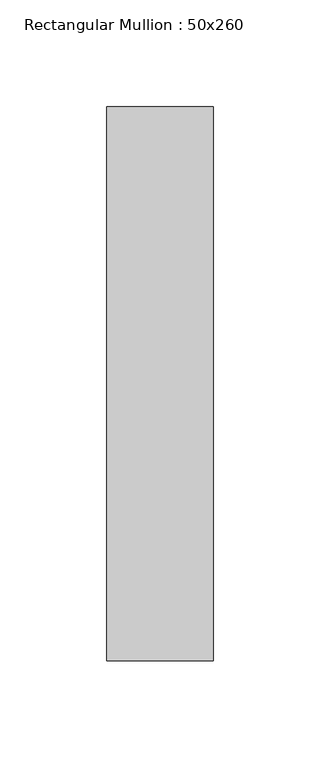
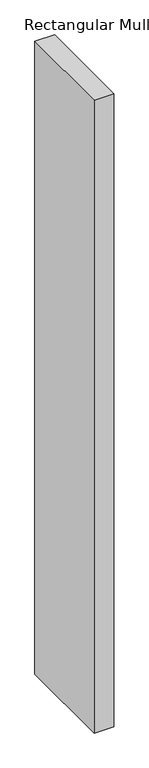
"""IFC4 building model written with IfcOpenShell, lengths in millimetres: member geometry, Rectangular Mullion : 50x260."""

import ifcopenshell
import ifcopenshell.guid

model = None  # the IFC model being written
_history = None  # IfcOwnerHistory: only IFC2X3 demands one
_inside = {}  # id of a spatial element -> (the spatial element, [elements in it])
_under = {}  # id of a project, library or spatial element -> (it, [spatial elements below it])
_declared = {}  # id of a project -> (the project, [libraries it declares])
_typed = {}  # id of a type object -> (the type object, [elements of that type])
_made_of = {}  # id of a material, layer set ... -> (it, [elements and type objects made of it])


def new_model(schema):
    """Start an empty IFC model of exactly this schema.

    Asked for "IFC4X3", IfcOpenShell would pick the latest addendum, in which some entities
    have other attributes; the version numbers below select the first issue.
    IFC2X3 requires an IfcOwnerHistory on every rooted entity: one is made here for all.
    """
    global model, _history
    if schema == "IFC4X3":
        model = ifcopenshell.file(schema_version=(4, 3, 0, 0))
    else:
        model = ifcopenshell.file(schema=schema)
    _inside.clear()
    _under.clear()
    _declared.clear()
    _typed.clear()
    _made_of.clear()
    _history = None
    if model.schema == "IFC2X3":
        org = make("IfcOrganization", Name="unknown")
        user = make(
            "IfcPersonAndOrganization",
            ThePerson=make("IfcPerson", FamilyName="unknown"),
            TheOrganization=org,
        )
        app = make(
            "IfcApplication",
            ApplicationDeveloper=org,
            Version="unknown",
            ApplicationFullName="unknown",
            ApplicationIdentifier="unknown",
        )
        _history = make(
            "IfcOwnerHistory",
            OwningUser=user,
            OwningApplication=app,
            ChangeAction="ADDED",
            CreationDate=0,
        )
    return model


def make(cls, **values):
    """One entity of the class cls with the attributes given. An attribute that is None is left unset."""
    return model.create_entity(
        cls, **{name: value for name, value in values.items() if value is not None}
    )


def rooted(cls, **values):
    """An entity with a GlobalId (a new one), such as an element, a storey or a relation."""
    return make(cls, GlobalId=ifcopenshell.guid.new(), OwnerHistory=_history, **values)


def si_unit(unit_type, name, prefix=None):
    """IfcSIUnit, for example si_unit("LENGTHUNIT", "METRE", prefix="MILLI")."""
    return make("IfcSIUnit", UnitType=unit_type, Prefix=prefix, Name=name)


def assignment(units):
    """IfcUnitAssignment: the units of a project."""
    return None if units is None else make("IfcUnitAssignment", Units=units)


def point(xyz):
    """IfcCartesianPoint."""
    return None if xyz is None else make("IfcCartesianPoint", Coordinates=xyz)


def direction(xyz):
    """IfcDirection."""
    return None if xyz is None else make("IfcDirection", DirectionRatios=xyz)


def frame(location, z_axis=None, x_axis=None):
    """IfcAxis2Placement3D, a coordinate frame: its origin and axes. An axis left out is left unset."""
    return make(
        "IfcAxis2Placement3D",
        Location=point(location),
        Axis=direction(z_axis),
        RefDirection=direction(x_axis),
    )


def origin():
    """The frame at (0, 0, 0) with its axes left unset."""
    return frame((0.0, 0.0, 0.0))


def place(relative_to, where):
    """IfcLocalPlacement: puts the frame where relative to a parent placement (None: the world)."""
    return make(
        "IfcLocalPlacement", PlacementRelTo=relative_to, RelativePlacement=where
    )


def context(
    kind, dimensions, precision=None, world=None, true_north=None, identifier=None
):
    """IfcGeometricRepresentationContext, for example the 3D "Model" context."""
    return make(
        "IfcGeometricRepresentationContext",
        ContextIdentifier=identifier,
        ContextType=kind,
        CoordinateSpaceDimension=dimensions,
        Precision=precision,
        WorldCoordinateSystem=world,
        TrueNorth=true_north,
    )


def project(units=None, contexts=None):
    """IfcProject with its units and contexts."""
    return rooted(
        "IfcProject",
        Name="project",
        RepresentationContexts=contexts,
        UnitsInContext=assignment(units),
    )


def spatial(cls, under=None, at=None, **own):
    """A site, building, storey or space (cls), placed at a placement, below another one or the project."""
    s = rooted(cls, ObjectPlacement=at, **own)
    if under is not None:
        _under.setdefault(under.id(), (under, []))[1].append(s)
    return s


def polyline(points):
    """IfcPolyline through the points."""
    return make("IfcPolyline", Points=[point(p) for p in points])


def outline(outer, holes=None, kind="AREA"):
    """IfcArbitraryClosedProfileDef: a profile drawn as a closed curve; with holes, ...WithVoids."""
    if holes is None:
        return make("IfcArbitraryClosedProfileDef", ProfileType=kind, OuterCurve=outer)
    return make(
        "IfcArbitraryProfileDefWithVoids",
        ProfileType=kind,
        OuterCurve=outer,
        InnerCurves=holes,
    )


def extrude(swept, where, along, depth):
    """IfcExtrudedAreaSolid: the profile swept, set in the frame where, extruded along a direction by depth."""
    return make(
        "IfcExtrudedAreaSolid",
        SweptArea=swept,
        Position=where,
        ExtrudedDirection=direction(along),
        Depth=depth,
    )


def shape(context_of_items, identifier, shape_type, items):
    """IfcShapeRepresentation: the items that make up one representation, for example the "Body"."""
    return make(
        "IfcShapeRepresentation",
        ContextOfItems=context_of_items,
        RepresentationIdentifier=identifier,
        RepresentationType=shape_type,
        Items=items,
    )


def source(mapping_origin, context_of_items, identifier, shape_type, items):
    """IfcRepresentationMap: a shape defined once, which mapped items show again and again."""
    return make(
        "IfcRepresentationMap",
        MappingOrigin=mapping_origin,
        MappedRepresentation=shape(context_of_items, identifier, shape_type, items),
    )


def transform(
    local_origin,
    x_axis=None,
    y_axis=None,
    z_axis=None,
    scale=None,
    scale2=None,
    scale3=None,
    uniform=True,
):
    """IfcCartesianTransformationOperator3D, or its non-uniform kind. x_axis, y_axis, z_axis: its Axis1, 2, 3."""
    if uniform:
        return make(
            "IfcCartesianTransformationOperator3D",
            Axis1=direction(x_axis),
            Axis2=direction(y_axis),
            LocalOrigin=point(local_origin),
            Scale=scale,
            Axis3=direction(z_axis),
        )
    return make(
        "IfcCartesianTransformationOperator3DnonUniform",
        Axis1=direction(x_axis),
        Axis2=direction(y_axis),
        LocalOrigin=point(local_origin),
        Scale=scale,
        Axis3=direction(z_axis),
        Scale2=scale2,
        Scale3=scale3,
    )


def mapped(mapping_source, mapping_target):
    """IfcMappedItem: shows the shape of a source again, moved by a transform."""
    return make(
        "IfcMappedItem", MappingSource=mapping_source, MappingTarget=mapping_target
    )


def made_of(thing, what):
    """Note that an element or type object is made of a material, layer set ...; save() writes the relation."""
    if what is not None:
        _made_of.setdefault(what.id(), (what, []))[1].append(thing)
    return thing


def element(
    cls,
    number,
    at=None,
    inside=None,
    cuts=None,
    type_object=None,
    material=None,
    context=None,
    identifier="Body",
    shape_type=None,
    held_by="IfcProductDefinitionShape",
    body=None,
    shapes=None,
    **own,
):
    """One element of the class cls, such as IfcWall. Its Tag is "e" and its number.

    at: its placement. inside: the storey or other place that contains it. cuts: it is an
    opening in that element (IfcRelVoidsElement). A single representation is given by context,
    identifier, shape_type and body (its items); several are given by shapes. held_by: the class
    of the entity that holds the representations. save() writes the other relations.
    """
    e = rooted(cls, Tag="e%d" % number, ObjectPlacement=at, **own)
    if body is not None:
        shapes = [shape(context, identifier, shape_type, body)]
    if shapes is not None:
        e.Representation = make(held_by, Representations=shapes)
    if inside is not None:
        _inside.setdefault(inside.id(), (inside, []))[1].append(e)
    if cuts is not None:
        rooted(
            "IfcRelVoidsElement", RelatingBuildingElement=cuts, RelatedOpeningElement=e
        )
    if type_object is not None:
        _typed.setdefault(type_object.id(), (type_object, []))[1].append(e)
    return made_of(e, material)


def aggregate(whole, parts):
    """IfcRelAggregates: a whole, such as a stair, and the parts it consists of."""
    return rooted("IfcRelAggregates", RelatingObject=whole, RelatedObjects=parts)


def save(model, path):
    """Write the relations noted so far, then the file.

    IfcRelAggregates (storeys below a building ...), IfcRelContainedInSpatialStructure (elements
    in a storey), IfcRelDefinesByType, IfcRelAssociatesMaterial and IfcRelDeclares: one each for
    every whole, place, type object, material and project.
    """
    for whole, parts in _under.values():
        aggregate(whole, parts)
    for where, things in _inside.values():
        rooted(
            "IfcRelContainedInSpatialStructure",
            RelatedElements=things,
            RelatingStructure=where,
        )
    for kind, things in _typed.values():
        rooted("IfcRelDefinesByType", RelatedObjects=things, RelatingType=kind)
    for what, things in _made_of.values():
        rooted("IfcRelAssociatesMaterial", RelatedObjects=things, RelatingMaterial=what)
    for by, libraries in _declared.values():
        rooted("IfcRelDeclares", RelatingContext=by, RelatedDefinitions=libraries)
    model.write(path)


def rectangular_mullion_50x260_f82fd765(model_context):
    return source(origin(), model_context, "Body", "SweptSolid", [
        extrude(outline(polyline([(0.0, 130.0), (0.0, -130.0), (-50.0, -130.0), (-50.0, 130.0), (0.0, 130.0)])), frame((0.0, 0.0, -1697.3972723), z_axis=(0.0, 0.0, 1.0), x_axis=(1.0, 0.0, 0.0)), (0.0, 0.0, 1.0), 1697.3972723),
    ])


if __name__ == "__main__":
    model = new_model("IFC4")
    model_context = context("Model", 3, world=origin())
    ifc_project = project(units=[si_unit("LENGTHUNIT", "METRE", prefix="MILLI")], contexts=[model_context])
    site = spatial("IfcSite", under=ifc_project)
    building = spatial("IfcBuilding", under=site)
    placement = place(None, origin())
    rectangular_mullion_50x260_shape = rectangular_mullion_50x260_f82fd765(model_context)
    element("IfcMember", 1, ObjectType="Rectangular Mullion : 50x260", at=placement, inside=building, context=model_context, shape_type="MappedRepresentation", body=[
        mapped(rectangular_mullion_50x260_shape, transform((0.0, 0.0, 0.0), x_axis=(1.0, 0.0, 0.0), y_axis=(0.0, 1.0, 0.0), z_axis=(0.0, 0.0, 1.0))),
    ])
    save(model, "model.ifc")
